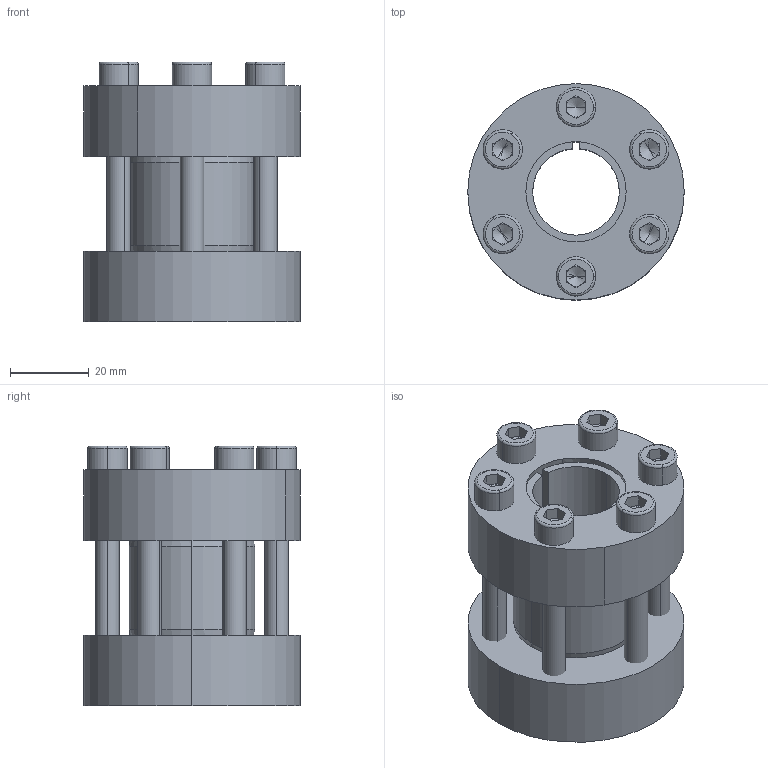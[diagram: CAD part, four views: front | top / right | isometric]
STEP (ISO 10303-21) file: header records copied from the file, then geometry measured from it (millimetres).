
FILE_DESCRIPTION (( 'STEP AP214' ), '1' );
FILE_NAME ('CONEX-M-22x55.step', '2013-04-06T13:25:08', ( 'Pc' ), ( '' ), 'SwSTEP 2.0', 'SolidWorks 2013', '' );
FILE_SCHEMA (( 'AUTOMOTIVE_DESIGN' ));
Length unit declared in the file: millimetre
Products named in the file (1): CONEX-M-22x55
Bounding box: 55 x 55 x 66.01 mm (x, y, z)
Volume: 86510.6 mm3; surface area: 38215.1 mm2
Topology: 9 solids, 9 shells, 214 faces, 482 edges, 286 vertices
Faces by surface type: plane 98, cylinder 58, cone 34, torus 24
Entity records: 8399 total; most frequent: DIRECTION 1122, CARTESIAN_POINT 998, ORIENTED_EDGE 940, EDGE_CURVE 470, AXIS2_PLACEMENT_3D 441, VERTEX_POINT 286, EDGE_LOOP 254, VECTOR 240
